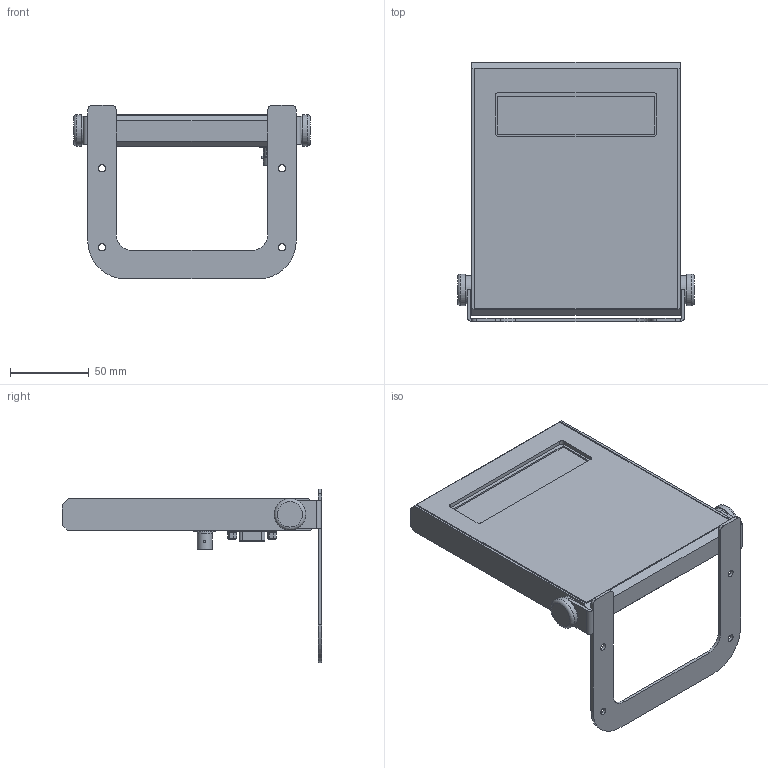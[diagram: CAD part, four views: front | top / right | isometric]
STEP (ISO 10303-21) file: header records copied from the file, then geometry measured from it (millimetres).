
FILE_DESCRIPTION (( 'STEP AP214' ), '1' );
FILE_NAME ('T40.STEP', '2023-10-16T06:51:23', ( '' ), ( '' ), 'SwSTEP 2.0', 'SolidWorks 2019', '' );
FILE_SCHEMA (( 'AUTOMOTIVE_DESIGN' ));
Length unit declared in the file: millimetre
Products named in the file (1): T40
Bounding box: 150 x 164 x 110 mm (x, y, z)
Volume: 427086.3 mm3; surface area: 72532.1 mm2
Topology: 1 solids, 6 shells, 377 faces, 928 edges, 613 vertices
Faces by surface type: plane 214, cylinder 102, cone 42, torus 19
Full cylindrical faces by diameter (mm): 0.7 x1, 1.385 x9, 1.5 x2, 2.5 x2, 3 x2, 3.05 x2, 3.2 x2, 3.3 x4, 4 x1, 4.5 x8, 5.5 x6, 6 x2, 6.2 x4, 6.4 x2, 8.6 x1, 9.5 x1, 14 x1, 18 x2, 20 x2
Entity records: 10946 total; most frequent: CARTESIAN_POINT 2416, DIRECTION 1768, ORIENTED_EDGE 1610, EDGE_CURVE 805, AXIS2_PLACEMENT_3D 663, VERTEX_POINT 575, EDGE_LOOP 530, FACE_OUTER_BOUND 442
